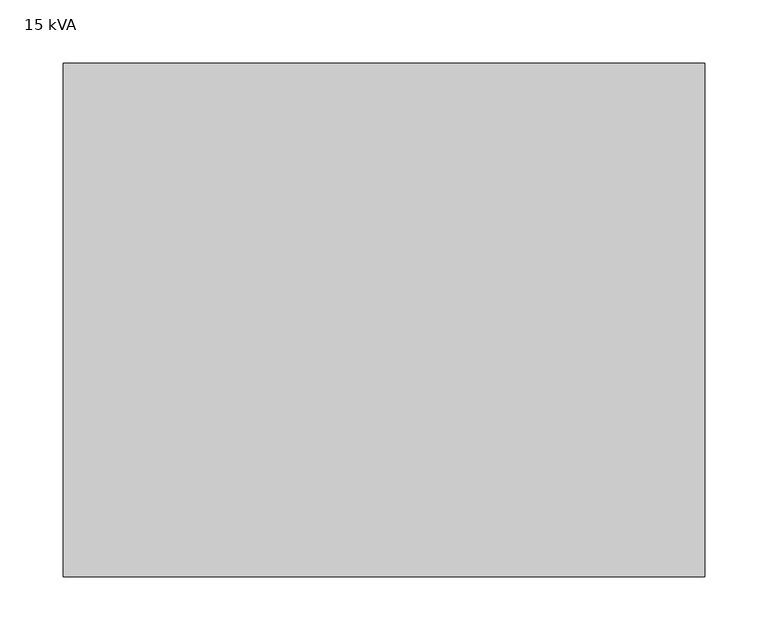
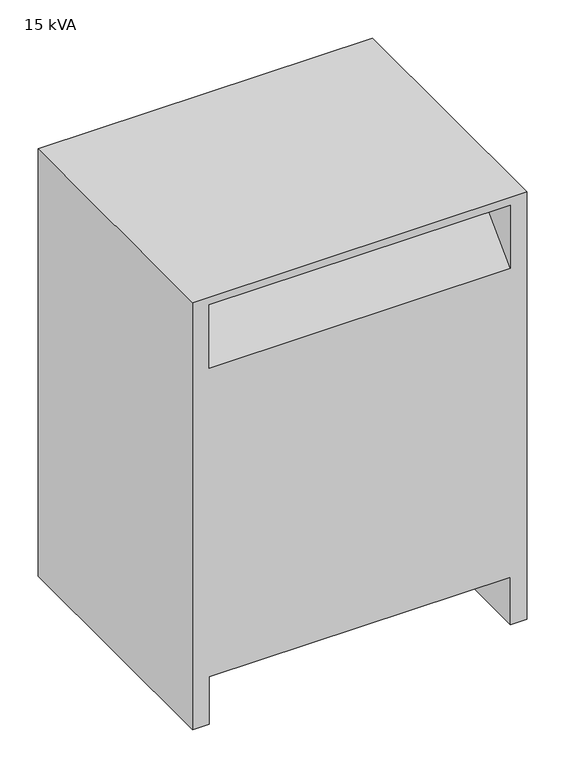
"""IFC4 building model written with IfcOpenShell, lengths in millimetres: proxy geometry, Dry Type Transformer - 480-208Y120 - NEMA Type 2 : 15 kVA."""

from ifc_helpers import new_model, si_unit, origin, place, context, project, spatial, faceted_brep, source, transform, mapped, element, save


def proxy_15_kva_b0f935c8(model_context):
    return source(origin(), model_context, "Body", "Brep", [
        faceted_brep([(254.0, -21.6841349, 685.8), (254.0, 384.7158651, 685.8), (-254.0, 384.7158651, 685.8), (-254.0, -21.6841349, 685.8), (-254.0, -21.6841349, 0.0), (-254.0, 384.7158651, 0.0), (-228.6, 384.7158651, 0.0), (-228.6, -21.6841349, 0.0), (254.0, 384.7158651, 0.0), (254.0, -21.6841349, 0.0), (228.6, -21.6841349, 0.0), (228.6, 384.7158651, 0.0), (228.6, 384.7158651, 76.2), (-228.6, 384.7158651, 76.2), (228.6, 384.7158651, 571.5), (228.6, 384.7158651, 673.1), (-228.6, 384.7158651, 673.1), (-228.6, 384.7158651, 571.5), (-228.6, -21.6841349, 76.2), (228.6, -21.6841349, 76.2), (228.6, -21.6841349, 673.1), (228.6, -21.6841349, 571.5), (-228.6, -21.6841349, 571.5), (-228.6, -21.6841349, 673.1), (228.6, 79.9158651, 673.1), (-228.6, 79.9158651, 673.1), (228.6, 283.1158651, 673.1), (-228.6, 283.1158651, 673.1)], [[[0, 1, 2, 3]], [[4, 5, 6, 7]], [[8, 9, 10, 11]], [[1, 0, 9, 8]], [[2, 1, 8, 11, 12, 13, 6, 5], [14, 15, 16, 17]], [[3, 2, 5, 4]], [[0, 3, 4, 7, 18, 19, 10, 9], [20, 21, 22, 23]], [[18, 13, 12, 19]], [[13, 18, 7, 6]], [[19, 12, 11, 10]], [[24, 21, 20]], [[25, 23, 22]], [[24, 20, 23, 25]], [[21, 24, 25, 22]], [[26, 15, 14]], [[27, 17, 16]], [[26, 14, 17, 27]], [[15, 26, 27, 16]]]),
    ])


if __name__ == "__main__":
    model = new_model("IFC4")
    model_context = context("Model", 3, world=origin())
    ifc_project = project(units=[si_unit("LENGTHUNIT", "METRE", prefix="MILLI")], contexts=[model_context])
    site = spatial("IfcSite", under=ifc_project)
    building = spatial("IfcBuilding", under=site)
    placement = place(None, origin())
    proxy_15_kva_shape = proxy_15_kva_b0f935c8(model_context)
    element("IfcBuildingElementProxy", 1, Name="Dry Type Transformer - 480-208Y120 - NEMA Type 2 : 15 kVA", ObjectType="Dry Type Transformer - 480-208Y120 - NEMA Type 2 : 15 kVA", at=placement, inside=building, context=model_context, shape_type="MappedRepresentation", body=[
        mapped(proxy_15_kva_shape, transform((0.0, 0.0, 0.0), x_axis=(1.0, 0.0, 0.0), y_axis=(0.0, 1.0, 0.0), z_axis=(0.0, 0.0, 1.0))),
    ])
    save(model, "model.ifc")
